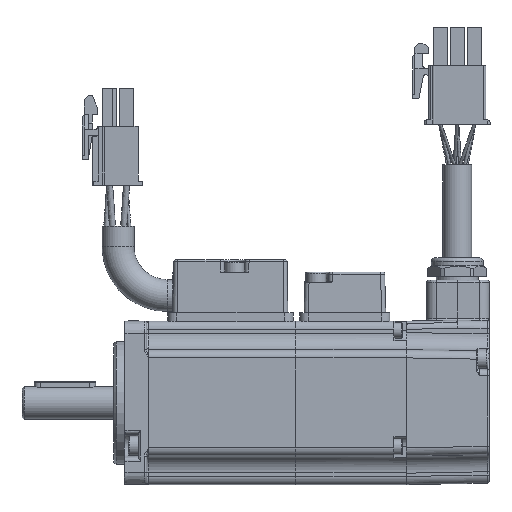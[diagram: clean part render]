
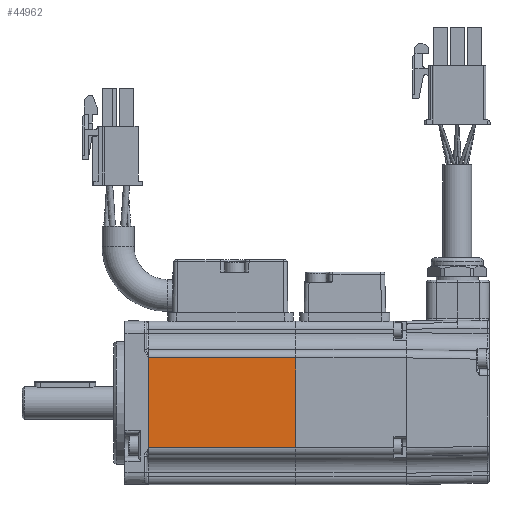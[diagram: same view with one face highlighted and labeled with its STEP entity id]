
A CAD part, left-side view. The second image highlights one B-rep face of the part: STEP entity #44962.
In plain terms, the highlighted planar face has unit normal (-1, 0, 0) as drawn and (0, 1, 0) by its records, which use the part's own axes.
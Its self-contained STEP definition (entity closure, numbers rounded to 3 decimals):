
#3207=PLANE('',#57405);
#16358=ORIENTED_EDGE('',*,*,#22699,.T.);
#16359=ORIENTED_EDGE('',*,*,#22700,.T.);
#16360=ORIENTED_EDGE('',*,*,#22701,.T.);
#16361=ORIENTED_EDGE('',*,*,#22702,.T.);
#22699=EDGE_CURVE('',#26891,#26892,#31104,.F.);
#22700=EDGE_CURVE('',#26892,#26893,#31105,.T.);
#22701=EDGE_CURVE('',#26893,#26894,#31106,.T.);
#22702=EDGE_CURVE('',#26894,#26891,#31107,.T.);
#26891=VERTEX_POINT('',#91137);
#26892=VERTEX_POINT('',#91138);
#26893=VERTEX_POINT('',#91140);
#26894=VERTEX_POINT('',#91142);
#31104=LINE('',#91136,#35287);
#31105=LINE('',#91139,#35288);
#31106=LINE('',#91141,#35289);
#31107=LINE('',#91143,#35290);
#35287=VECTOR('',#68746,1000.);
#35288=VECTOR('',#68747,1000.);
#35289=VECTOR('',#68748,1000.);
#35290=VECTOR('',#68749,1000.);
#38514=EDGE_LOOP('',(#16358,#16359,#16360,#16361));
#41797=FACE_BOUND('',#38514,.T.);
#44962=ADVANCED_FACE('',(#41797),#3207,.T.);
#57405=AXIS2_PLACEMENT_3D('',#91135,#68744,#68745);
#68744=DIRECTION('',(0.,1.,0.));
#68745=DIRECTION('',(0.,0.,1.));
#68746=DIRECTION('',(-1.,0.,0.));
#68747=DIRECTION('',(0.,0.,-1.));
#68748=DIRECTION('',(-1.,0.,0.));
#68749=DIRECTION('',(0.,0.,1.));
#91135=CARTESIAN_POINT('',(-200.,20.,-20.));
#91136=CARTESIAN_POINT('',(0.,20.,11.));
#91137=CARTESIAN_POINT('',(-37.,20.,11.));
#91138=CARTESIAN_POINT('',(-1.,20.,11.));
#91139=CARTESIAN_POINT('',(-1.,20.,-20.));
#91140=CARTESIAN_POINT('',(-1.,20.,-11.));
#91141=CARTESIAN_POINT('',(-200.,20.,-11.));
#91142=CARTESIAN_POINT('',(-37.,20.,-11.));
#91143=CARTESIAN_POINT('',(-37.,20.,-20.));
